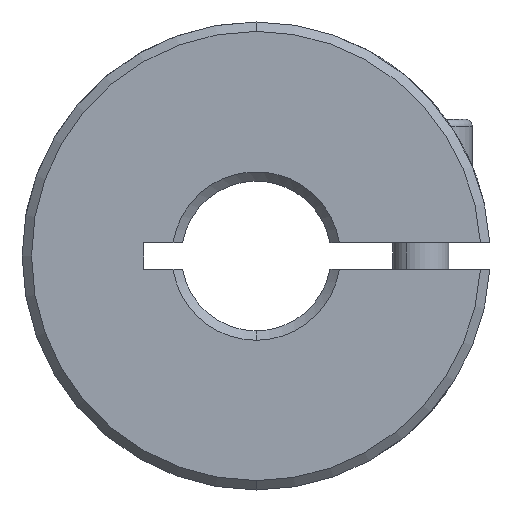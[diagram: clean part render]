
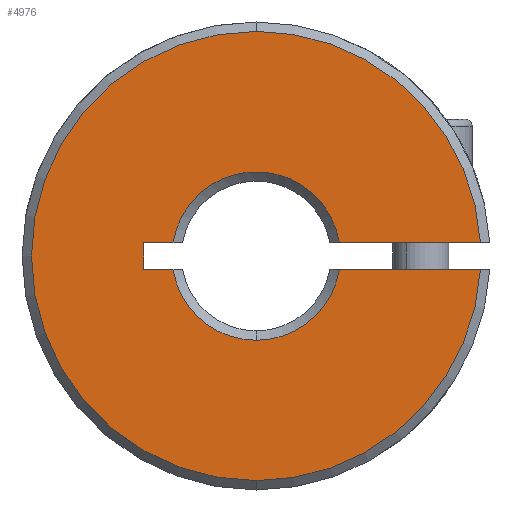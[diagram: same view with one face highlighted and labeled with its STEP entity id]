
A CAD part, front view. The second image highlights one B-rep face of the part: STEP entity #4976.
In plain terms, the highlighted planar face has unit normal (0, -1, 0).
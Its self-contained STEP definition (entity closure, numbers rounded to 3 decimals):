
#39 = DIRECTION ( 'NONE',  ( 0., 0., 1. ) ) ;
#217 = PLANE ( 'NONE',  #1635 ) ;
#241 = VERTEX_POINT ( 'NONE', #2198 ) ;
#435 = AXIS2_PLACEMENT_3D ( 'NONE', #4148, #3716, #578 ) ;
#527 = ORIENTED_EDGE ( 'NONE', *, *, #2644, .T. ) ;
#578 = DIRECTION ( 'NONE',  ( 0., 0., 1. ) ) ;
#587 = LINE ( 'NONE', #2340, #4639 ) ;
#642 = VERTEX_POINT ( 'NONE', #3336 ) ;
#670 = VERTEX_POINT ( 'NONE', #2038 ) ;
#700 = CIRCLE ( 'NONE', #435, 4.5 ) ;
#895 = AXIS2_PLACEMENT_3D ( 'NONE', #4746, #5605, #2507 ) ;
#901 = VECTOR ( 'NONE', #3858, 1000. ) ;
#910 = CARTESIAN_POINT ( 'NONE',  ( 0., 0.25, 0. ) ) ;
#963 = DIRECTION ( 'NONE',  ( 1., 0., 0. ) ) ;
#1003 = CARTESIAN_POINT ( 'NONE',  ( -6., 0.25, 0.7 ) ) ;
#1043 = CARTESIAN_POINT ( 'NONE',  ( 4.445, 0.25, -0.7 ) ) ;
#1074 = DIRECTION ( 'NONE',  ( 0., 1., 0. ) ) ;
#1274 = VERTEX_POINT ( 'NONE', #1850 ) ;
#1370 = VECTOR ( 'NONE', #963, 1000. ) ;
#1464 = VERTEX_POINT ( 'NONE', #2855 ) ;
#1580 = EDGE_CURVE ( 'NONE', #5295, #642, #587, .T. ) ;
#1635 = AXIS2_PLACEMENT_3D ( 'NONE', #5347, #1074, #1957 ) ;
#1708 = ORIENTED_EDGE ( 'NONE', *, *, #4863, .T. ) ;
#1728 = VERTEX_POINT ( 'NONE', #3019 ) ;
#1819 = DIRECTION ( 'NONE',  ( 0., 0., 1. ) ) ;
#1849 = FACE_OUTER_BOUND ( 'NONE', #2660, .T. ) ;
#1850 = CARTESIAN_POINT ( 'NONE',  ( 0., 0.25, -12. ) ) ;
#1933 = VERTEX_POINT ( 'NONE', #1043 ) ;
#1947 = ORIENTED_EDGE ( 'NONE', *, *, #4024, .F. ) ;
#1957 = DIRECTION ( 'NONE',  ( 0., 0., 1. ) ) ;
#1994 = DIRECTION ( 'NONE',  ( 0., 0., 1. ) ) ;
#2038 = CARTESIAN_POINT ( 'NONE',  ( 4.445, 0.25, 0.7 ) ) ;
#2101 = AXIS2_PLACEMENT_3D ( 'NONE', #2199, #3027, #39 ) ;
#2168 = DIRECTION ( 'NONE',  ( 0., -1., 0. ) ) ;
#2198 = CARTESIAN_POINT ( 'NONE',  ( 0., 0.25, -4.5 ) ) ;
#2199 = CARTESIAN_POINT ( 'NONE',  ( 0., 0.25, 0. ) ) ;
#2200 = EDGE_CURVE ( 'NONE', #3699, #4668, #2674, .T. ) ;
#2340 = CARTESIAN_POINT ( 'NONE',  ( -6., 0.25, -0.7 ) ) ;
#2358 = AXIS2_PLACEMENT_3D ( 'NONE', #4483, #2717, #1994 ) ;
#2381 = CIRCLE ( 'NONE', #3286, 12. ) ;
#2487 = ORIENTED_EDGE ( 'NONE', *, *, #2200, .F. ) ;
#2507 = DIRECTION ( 'NONE',  ( 0., 0., 1. ) ) ;
#2553 = ORIENTED_EDGE ( 'NONE', *, *, #5083, .T. ) ;
#2640 = CIRCLE ( 'NONE', #895, 12. ) ;
#2644 = EDGE_CURVE ( 'NONE', #1728, #1274, #3556, .T. ) ;
#2660 = EDGE_LOOP ( 'NONE', ( #2487, #5676, #4359, #4761, #527, #2553, #4975, #1708, #5091, #4452, #1947 ) ) ;
#2674 = LINE ( 'NONE', #2700, #3402 ) ;
#2684 = DIRECTION ( 'NONE',  ( 0., 1., 0. ) ) ;
#2700 = CARTESIAN_POINT ( 'NONE',  ( -6., 0.25, 0.7 ) ) ;
#2715 = LINE ( 'NONE', #5257, #1370 ) ;
#2717 = DIRECTION ( 'NONE',  ( 0., -1., 0. ) ) ;
#2815 = VECTOR ( 'NONE', #3598, 1000. ) ;
#2855 = CARTESIAN_POINT ( 'NONE',  ( 11.98, 0.25, -0.7 ) ) ;
#3019 = CARTESIAN_POINT ( 'NONE',  ( 0., 0.25, 12. ) ) ;
#3027 = DIRECTION ( 'NONE',  ( 0., 1., 0. ) ) ;
#3286 = AXIS2_PLACEMENT_3D ( 'NONE', #910, #2168, #4806 ) ;
#3336 = CARTESIAN_POINT ( 'NONE',  ( -4.445, 0.25, -0.7 ) ) ;
#3362 = EDGE_CURVE ( 'NONE', #241, #642, #700, .T. ) ;
#3374 = CIRCLE ( 'NONE', #5673, 4.5 ) ;
#3402 = VECTOR ( 'NONE', #3540, 1000. ) ;
#3503 = LINE ( 'NONE', #1003, #2815 ) ;
#3540 = DIRECTION ( 'NONE',  ( -1., 0., 0. ) ) ;
#3556 = CIRCLE ( 'NONE', #2358, 12. ) ;
#3598 = DIRECTION ( 'NONE',  ( -1., 0., 0. ) ) ;
#3699 = VERTEX_POINT ( 'NONE', #4366 ) ;
#3706 = VERTEX_POINT ( 'NONE', #4543 ) ;
#3716 = DIRECTION ( 'NONE',  ( 0., 1., 0. ) ) ;
#3824 = LINE ( 'NONE', #5129, #901 ) ;
#3858 = DIRECTION ( 'NONE',  ( 0., 0., -1. ) ) ;
#4020 = CARTESIAN_POINT ( 'NONE',  ( 0., 0.25, 0. ) ) ;
#4024 = EDGE_CURVE ( 'NONE', #4668, #5295, #3824, .T. ) ;
#4098 = DIRECTION ( 'NONE',  ( 1., 0., 0. ) ) ;
#4148 = CARTESIAN_POINT ( 'NONE',  ( 0., 0.25, 0. ) ) ;
#4359 = ORIENTED_EDGE ( 'NONE', *, *, #5524, .F. ) ;
#4366 = CARTESIAN_POINT ( 'NONE',  ( -4.445, 0.25, 0.7 ) ) ;
#4401 = CIRCLE ( 'NONE', #2101, 4.5 ) ;
#4452 = ORIENTED_EDGE ( 'NONE', *, *, #1580, .F. ) ;
#4470 = CARTESIAN_POINT ( 'NONE',  ( -6., 0.25, -0.7 ) ) ;
#4483 = CARTESIAN_POINT ( 'NONE',  ( 0., 0.25, 0. ) ) ;
#4543 = CARTESIAN_POINT ( 'NONE',  ( 11.98, 0.25, 0.7 ) ) ;
#4639 = VECTOR ( 'NONE', #4098, 1000. ) ;
#4668 = VERTEX_POINT ( 'NONE', #5233 ) ;
#4746 = CARTESIAN_POINT ( 'NONE',  ( 0., 0.25, 0. ) ) ;
#4761 = ORIENTED_EDGE ( 'NONE', *, *, #4938, .T. ) ;
#4806 = DIRECTION ( 'NONE',  ( 0., 0., 1. ) ) ;
#4863 = EDGE_CURVE ( 'NONE', #1933, #241, #4401, .T. ) ;
#4913 = EDGE_CURVE ( 'NONE', #1933, #1464, #2715, .T. ) ;
#4938 = EDGE_CURVE ( 'NONE', #3706, #1728, #2381, .T. ) ;
#4968 = EDGE_CURVE ( 'NONE', #3699, #670, #3374, .T. ) ;
#4975 = ORIENTED_EDGE ( 'NONE', *, *, #4913, .F. ) ;
#4976 = ADVANCED_FACE ( 'NONE', ( #1849 ), #217, .F. ) ;
#5083 = EDGE_CURVE ( 'NONE', #1274, #1464, #2640, .T. ) ;
#5091 = ORIENTED_EDGE ( 'NONE', *, *, #3362, .T. ) ;
#5129 = CARTESIAN_POINT ( 'NONE',  ( -6., 0.25, -0.7 ) ) ;
#5233 = CARTESIAN_POINT ( 'NONE',  ( -6., 0.25, 0.7 ) ) ;
#5257 = CARTESIAN_POINT ( 'NONE',  ( -6., 0.25, -0.7 ) ) ;
#5295 = VERTEX_POINT ( 'NONE', #4470 ) ;
#5347 = CARTESIAN_POINT ( 'NONE',  ( -50., 0.25, 17.349 ) ) ;
#5524 = EDGE_CURVE ( 'NONE', #3706, #670, #3503, .T. ) ;
#5605 = DIRECTION ( 'NONE',  ( 0., -1., 0. ) ) ;
#5673 = AXIS2_PLACEMENT_3D ( 'NONE', #4020, #2684, #1819 ) ;
#5676 = ORIENTED_EDGE ( 'NONE', *, *, #4968, .T. ) ;
